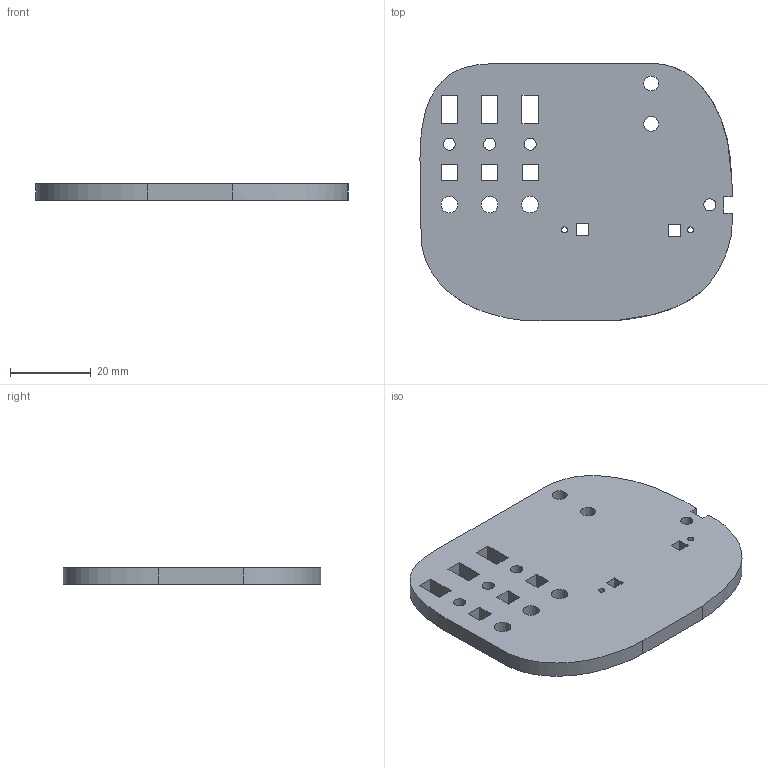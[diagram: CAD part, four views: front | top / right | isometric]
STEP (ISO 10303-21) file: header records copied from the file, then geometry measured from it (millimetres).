
FILE_DESCRIPTION(/* description */ (''),/* implementation_level */ '2;1');
FILE_NAME(/* name */ 'C4_Cheek.step',/* time_stamp */ '2025-09-23T19:20:50+01:00',/* author */ (''),/* organization */ (''),/* preprocessor_version */ 'ST-DEVELOPER v20.1',/* originating_system */ 'Autodesk Translation Framework v14.17.0.0',/* authorisation */ '');
FILE_SCHEMA (('AUTOMOTIVE_DESIGN { 1 0 10303 214 3 1 1 }'));
Length unit declared in the file: millimetre
Products named in the file (1): C4_Cheek
Bounding box: 77.26 x 63.71 x 4 mm (x, y, z)
Volume: 16810.4 mm3; surface area: 10386.1 mm2
Topology: 1 solids, 1 shells, 61 faces, 177 edges, 118 vertices
Faces by surface type: plane 46, cylinder 11, bspline 4
Full cylindrical faces by diameter (mm): 1.5 x2, 3 x4, 3.7 x2, 4.1 x3
Entity records: 2290 total; most frequent: CARTESIAN_POINT 585, ORIENTED_EDGE 354, DIRECTION 307, EDGE_CURVE 177, LINE 147, VECTOR 147, VERTEX_POINT 118, EDGE_LOOP 99
